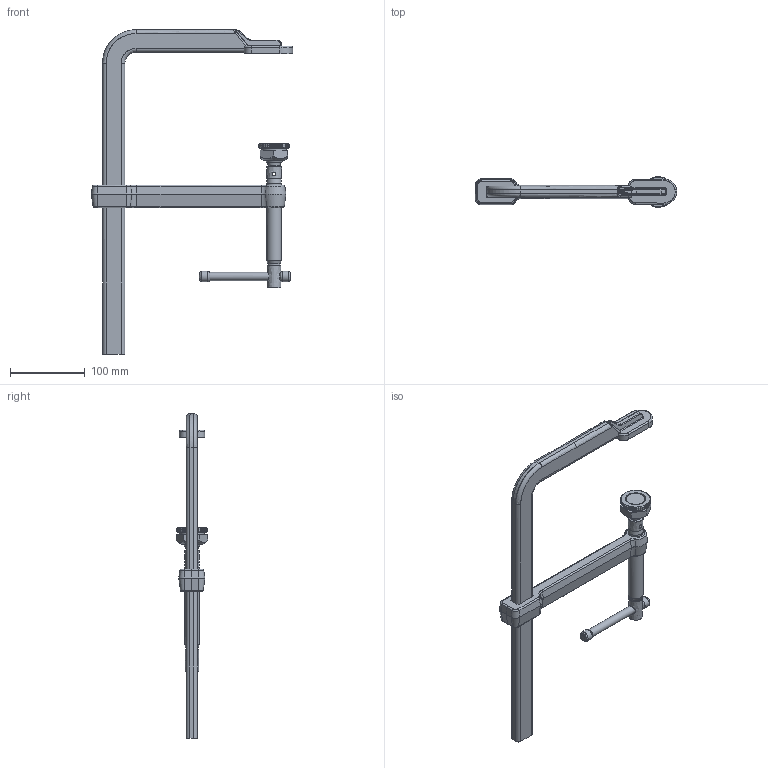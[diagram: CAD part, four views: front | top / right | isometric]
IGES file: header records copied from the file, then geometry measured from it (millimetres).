
Start section: ZWSOFT
Global section: file name: SG30T20M.igs; native system: ZW3D; preprocessor: 1.0; author: ZW3D; organization: ZWSOFT; date: 180122.101712; units: millimetre
Bounding box: 270.01 x 41.98 x 435 mm (x, y, z)
Surface area: 109028.9 mm2 (no closed solid volume)
Topology: 0 solids, 0 shells, 203 faces, 948 edges, 882 vertices
Faces by surface type: bspline 203
